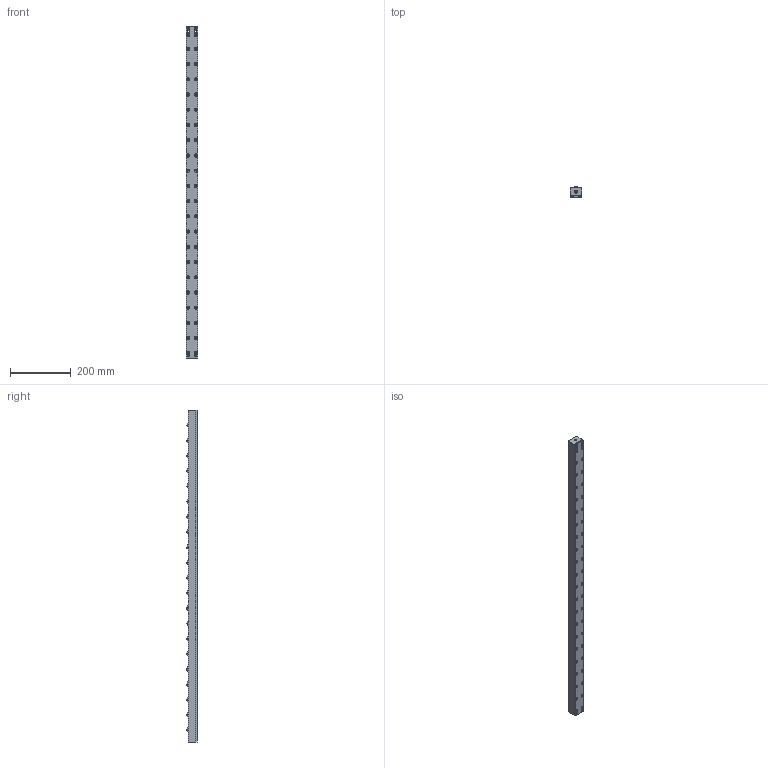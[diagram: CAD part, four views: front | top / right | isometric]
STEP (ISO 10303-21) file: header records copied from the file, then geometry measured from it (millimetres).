
FILE_DESCRIPTION (( 'STEP AP203' ), '1' );
FILE_NAME ('PVL30SL-21-P50.STEP', '2016-02-18T09:05:37', ( '' ), ( '' ), 'SwSTEP 2.0', 'SolidWorks 2013', '' );
FILE_SCHEMA (( 'CONFIG_CONTROL_DESIGN' ));
Length unit declared in the file: millimetre
Products named in the file (1): PVL30SL-21-P50
Bounding box: 38 x 36 x 1090 mm (x, y, z)
Volume: 1288425.8 mm3; surface area: 353249.8 mm2
Topology: 9 solids, 9 shells, 863 faces, 1960 edges, 1302 vertices
Faces by surface type: plane 479, cylinder 302, sphere 42, cone 40
Entity records: 24469 total; most frequent: DIRECTION 4414, CARTESIAN_POINT 4112, ORIENTED_EDGE 3892, EDGE_CURVE 1946, AXIS2_PLACEMENT_3D 1604, VERTEX_POINT 1302, LINE 1206, VECTOR 1206
